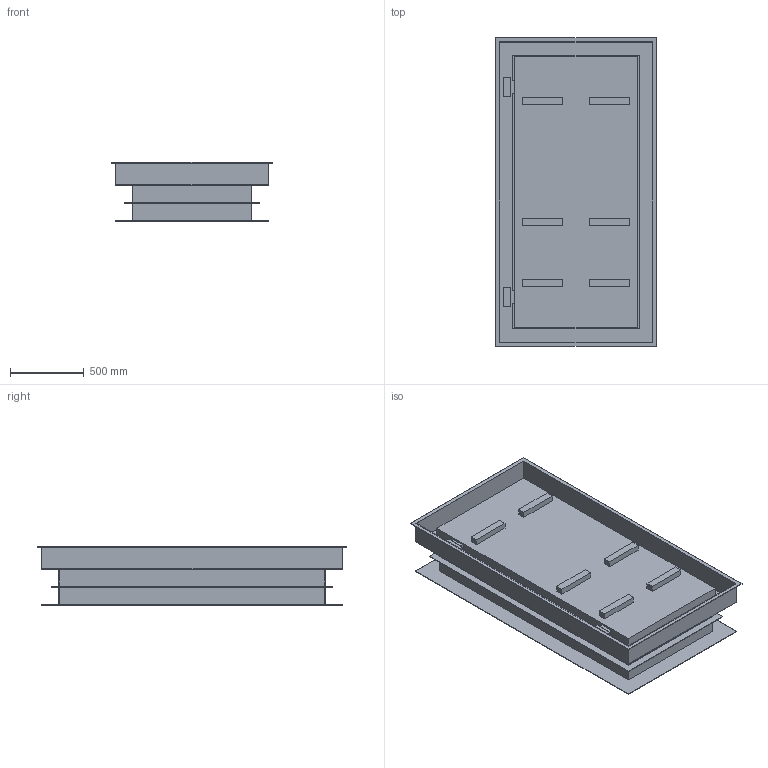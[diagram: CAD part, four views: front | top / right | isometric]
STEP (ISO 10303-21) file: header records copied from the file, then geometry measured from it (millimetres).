
FILE_DESCRIPTION((''),'2;1');
FILE_NAME('52148434','2023-11-20T14:11:15',('hrl'),('HUBER SE'),'CREO PARAMETRIC BY PTC INC, 2022162','CREO PARAMETRIC BY PTC INC, 2022162','');
FILE_SCHEMA(('AUTOMOTIVE_DESIGN { 1 0 10303 214 1 1 1 1 }'));
Length unit declared in the file: millimetre
Products named in the file (1): 52148434
Bounding box: 1090 x 2090 x 400 mm (x, y, z)
Volume: 164325144 mm3; surface area: 12037328 mm2
Topology: 1 solids, 1 shells, 129 faces, 312 edges, 208 vertices
Faces by surface type: plane 129
Entity records: 5010 total; most frequent: CARTESIAN_POINT 651, ORIENTED_EDGE 624, DIRECTION 570, VECTOR 312, LINE 312, EDGE_CURVE 312, VERTEX_POINT 208, EDGE_LOOP 156
